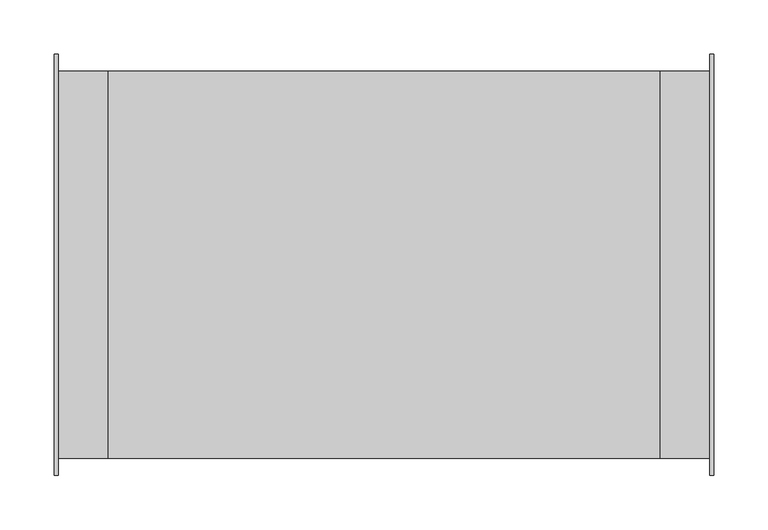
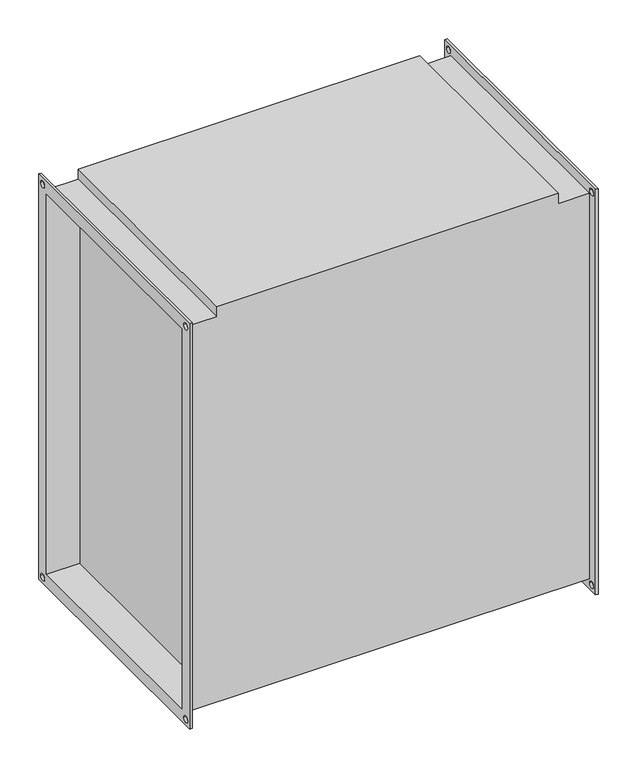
"""IFC4 building model written with IfcOpenShell, lengths in millimetres: proxy geometry, СВ_ВоздухонагревательЭлектрический_КанальныйПрямоугольный_200-1000_SPH-E : SPH-E-600x350/30."""

from ifc_helpers import new_model, si_unit, frame, origin, place, context, project, spatial, polyline, circle_curve, source, transform, mapped, element, save
from ifc_brep_helpers import plane_surface, revolved_surface, advanced_brep


def mechanical_equipment_c1a8ffe5(model_context):
    return source(origin(), model_context, "Body", "AdvancedBrep", [
        advanced_brep(
        [(-255.0, -179.0, 304.0), (-301.0, -179.0, 304.0), (-301.0, -179.0, -304.0), (301.0, -179.0, -304.0), (301.0, -179.0, 304.0), (255.0, -179.0, 304.0), (255.0, -179.0, 320.0), (-255.0, -179.0, 320.0), (-301.0, 179.0, -304.0), (301.0, 179.0, -304.0), (-301.0, 179.0, 304.0), (-255.0, 179.0, 304.0), (-255.0, 179.0, 320.0), (255.0, 179.0, 320.0), (255.0, 179.0, 304.0), (301.0, 179.0, 304.0), (255.0, 175.0, -300.0), (255.0, 175.0, 300.0), (255.0, -175.0, 300.0), (255.0, -175.0, -300.0), (-255.0, -175.0, 300.0), (-255.0, 175.0, 300.0), (-255.0, 175.0, -300.0), (-255.0, -175.0, -300.0), (-305.0, -195.0, 320.0), (-305.0, 195.0, 320.0), (-305.0, 195.0, -320.0), (-305.0, -195.0, -320.0), (-305.0, -175.0, 300.0), (-305.0, -175.0, -300.0), (-305.0, 175.0, -300.0), (-305.0, 175.0, 300.0), (-305.0, 180.0, 310.0), (-305.0, 190.0, 310.0), (-305.0, -190.0, 310.0), (-305.0, -180.0, 310.0), (-305.0, -190.0, -310.0), (-305.0, -180.0, -310.0), (-305.0, 180.0, -310.0), (-305.0, 190.0, -310.0), (-301.0, -195.0, 320.0), (-301.0, -195.0, -320.0), (-301.0, 195.0, -320.0), (-301.0, 195.0, 320.0), (-301.0, 190.0, 310.0), (-301.0, 180.0, 310.0), (-301.0, -180.0, 310.0), (-301.0, -190.0, 310.0), (-301.0, -180.0, -310.0), (-301.0, -190.0, -310.0), (-301.0, 190.0, -310.0), (-301.0, 180.0, -310.0), (301.0, 195.0, 320.0), (301.0, 195.0, -320.0), (301.0, -195.0, -320.0), (301.0, -195.0, 320.0), (301.0, 180.0, 310.0), (301.0, 190.0, 310.0), (301.0, -190.0, 310.0), (301.0, -180.0, 310.0), (301.0, -190.0, -310.0), (301.0, -180.0, -310.0), (301.0, 180.0, -310.0), (301.0, 190.0, -310.0), (305.0, 195.0, 320.0), (305.0, -195.0, 320.0), (305.0, -195.0, -320.0), (305.0, 195.0, -320.0), (305.0, 175.0, 300.0), (305.0, 175.0, -300.0), (305.0, -175.0, -300.0), (305.0, -175.0, 300.0), (305.0, 190.0, 310.0), (305.0, 180.0, 310.0), (305.0, -180.0, 310.0), (305.0, -190.0, 310.0), (305.0, -180.0, -310.0), (305.0, -190.0, -310.0), (305.0, 190.0, -310.0), (305.0, 180.0, -310.0)],
        [
            (0, 1),
            (1, 2),
            (2, 3),
            (3, 4),
            (4, 5),
            (5, 6),
            (6, 7),
            (7, 0),
            (2, 8),
            (8, 9),
            (9, 3),
            (10, 11),
            (11, 12),
            (12, 13),
            (13, 14),
            (14, 15),
            (15, 9),
            (8, 10),
            (0, 11),
            (10, 1),
            (13, 6),
            (5, 14),
            (16, 17),
            (17, 18),
            (18, 19),
            (19, 16),
            (7, 12),
            (20, 21),
            (21, 22),
            (22, 23),
            (23, 20),
            (4, 15),
            (24, 25),
            (25, 26),
            (26, 27),
            (27, 24),
            (28, 29),
            (29, 30),
            (30, 31),
            (31, 28),
            (32, 33, circle_curve(frame((-305.0, 185.0, 310.0), z_axis=(1.0, 0.0, 0.0), x_axis=(0.0, 1.0, 0.0)), 5.0)),
            (33, 32, circle_curve(frame((-305.0, 185.0, 310.0), z_axis=(1.0, 0.0, 0.0), x_axis=(0.0, 1.0, 0.0)), 5.0)),
            (34, 35, circle_curve(frame((-305.0, -185.0, 310.0), z_axis=(1.0, 0.0, 0.0), x_axis=(0.0, 1.0, 0.0)), 5.0)),
            (35, 34, circle_curve(frame((-305.0, -185.0, 310.0), z_axis=(1.0, 0.0, 0.0), x_axis=(0.0, 1.0, 0.0)), 5.0)),
            (36, 37, circle_curve(frame((-305.0, -185.0, -310.0), z_axis=(1.0, 0.0, 0.0), x_axis=(0.0, 1.0, 0.0)), 5.0)),
            (37, 36, circle_curve(frame((-305.0, -185.0, -310.0), z_axis=(1.0, 0.0, 0.0), x_axis=(0.0, 1.0, 0.0)), 5.0)),
            (38, 39, circle_curve(frame((-305.0, 185.0, -310.0), z_axis=(1.0, 0.0, 0.0), x_axis=(0.0, 1.0, 0.0)), 5.0)),
            (39, 38, circle_curve(frame((-305.0, 185.0, -310.0), z_axis=(1.0, 0.0, 0.0), x_axis=(0.0, 1.0, 0.0)), 5.0)),
            (40, 41),
            (41, 42),
            (42, 43),
            (43, 40),
            (44, 45, circle_curve(frame((-301.0, 185.0, 310.0), z_axis=(-1.0, 0.0, 0.0), x_axis=(0.0, 1.0, 0.0)), 5.0)),
            (45, 44, circle_curve(frame((-301.0, 185.0, 310.0), z_axis=(-1.0, 0.0, 0.0), x_axis=(0.0, 1.0, 0.0)), 5.0)),
            (46, 47, circle_curve(frame((-301.0, -185.0, 310.0), z_axis=(-1.0, 0.0, 0.0), x_axis=(0.0, 1.0, 0.0)), 5.0)),
            (47, 46, circle_curve(frame((-301.0, -185.0, 310.0), z_axis=(-1.0, 0.0, 0.0), x_axis=(0.0, 1.0, 0.0)), 5.0)),
            (48, 49, circle_curve(frame((-301.0, -185.0, -310.0), z_axis=(-1.0, 0.0, 0.0), x_axis=(0.0, 1.0, 0.0)), 5.0)),
            (49, 48, circle_curve(frame((-301.0, -185.0, -310.0), z_axis=(-1.0, 0.0, 0.0), x_axis=(0.0, 1.0, 0.0)), 5.0)),
            (50, 51, circle_curve(frame((-301.0, 185.0, -310.0), z_axis=(-1.0, 0.0, 0.0), x_axis=(0.0, 1.0, 0.0)), 5.0)),
            (51, 50, circle_curve(frame((-301.0, 185.0, -310.0), z_axis=(-1.0, 0.0, 0.0), x_axis=(0.0, 1.0, 0.0)), 5.0)),
            (27, 41),
            (40, 24),
            (26, 42),
            (25, 43),
            (52, 53),
            (53, 54),
            (54, 55),
            (55, 52),
            (56, 57, circle_curve(frame((301.0, 185.0, 310.0), z_axis=(1.0, 0.0, 0.0), x_axis=(0.0, 1.0, 0.0)), 5.0)),
            (57, 56, circle_curve(frame((301.0, 185.0, 310.0), z_axis=(1.0, 0.0, 0.0), x_axis=(0.0, 1.0, 0.0)), 5.0)),
            (58, 59, circle_curve(frame((301.0, -185.0, 310.0), z_axis=(1.0, 0.0, 0.0), x_axis=(0.0, 1.0, 0.0)), 5.0)),
            (59, 58, circle_curve(frame((301.0, -185.0, 310.0), z_axis=(1.0, 0.0, 0.0), x_axis=(0.0, 1.0, 0.0)), 5.0)),
            (60, 61, circle_curve(frame((301.0, -185.0, -310.0), z_axis=(1.0, 0.0, 0.0), x_axis=(0.0, 1.0, 0.0)), 5.0)),
            (61, 60, circle_curve(frame((301.0, -185.0, -310.0), z_axis=(1.0, 0.0, 0.0), x_axis=(0.0, 1.0, 0.0)), 5.0)),
            (62, 63, circle_curve(frame((301.0, 185.0, -310.0), z_axis=(1.0, 0.0, 0.0), x_axis=(0.0, 1.0, 0.0)), 5.0)),
            (63, 62, circle_curve(frame((301.0, 185.0, -310.0), z_axis=(1.0, 0.0, 0.0), x_axis=(0.0, 1.0, 0.0)), 5.0)),
            (64, 65),
            (65, 66),
            (66, 67),
            (67, 64),
            (68, 69),
            (69, 70),
            (70, 71),
            (71, 68),
            (72, 73, circle_curve(frame((305.0, 185.0, 310.0), z_axis=(-1.0, 0.0, 0.0), x_axis=(0.0, 1.0, 0.0)), 5.0)),
            (73, 72, circle_curve(frame((305.0, 185.0, 310.0), z_axis=(-1.0, 0.0, 0.0), x_axis=(0.0, 1.0, 0.0)), 5.0)),
            (74, 75, circle_curve(frame((305.0, -185.0, 310.0), z_axis=(-1.0, 0.0, 0.0), x_axis=(0.0, 1.0, 0.0)), 5.0)),
            (75, 74, circle_curve(frame((305.0, -185.0, 310.0), z_axis=(-1.0, 0.0, 0.0), x_axis=(0.0, 1.0, 0.0)), 5.0)),
            (76, 77, circle_curve(frame((305.0, -185.0, -310.0), z_axis=(-1.0, 0.0, 0.0), x_axis=(0.0, 1.0, 0.0)), 5.0)),
            (77, 76, circle_curve(frame((305.0, -185.0, -310.0), z_axis=(-1.0, 0.0, 0.0), x_axis=(0.0, 1.0, 0.0)), 5.0)),
            (78, 79, circle_curve(frame((305.0, 185.0, -310.0), z_axis=(-1.0, 0.0, 0.0), x_axis=(0.0, 1.0, 0.0)), 5.0)),
            (79, 78, circle_curve(frame((305.0, 185.0, -310.0), z_axis=(-1.0, 0.0, 0.0), x_axis=(0.0, 1.0, 0.0)), 5.0)),
            (55, 65),
            (64, 52),
            (54, 66),
            (53, 67),
            (31, 21),
            (20, 28),
            (30, 22),
            (29, 23),
            (68, 17),
            (16, 69),
            (19, 70),
            (18, 71),
            (32, 45),
            (44, 33),
            (56, 73),
            (72, 57),
            (34, 47),
            (46, 35),
            (58, 75),
            (74, 59),
            (36, 49),
            (48, 37),
            (60, 77),
            (76, 61),
            (38, 51),
            (50, 39),
            (62, 79),
            (78, 63),
        ],
        [
            plane_surface(frame((-255.0, -179.0, 304.0), z_axis=(0.0, -1.0, 0.0), x_axis=(-1.0, 0.0, 0.0))),
            plane_surface(frame((-255.0, -179.0, -304.0), z_axis=(0.0, 0.0, -1.0), x_axis=(-1.0, 0.0, 0.0))),
            plane_surface(frame((-255.0, 179.0, -304.0), z_axis=(0.0, 1.0, 0.0), x_axis=(-1.0, 0.0, 0.0))),
            plane_surface(frame((-255.0, 179.0, 304.0), z_axis=(0.0, 0.0, 1.0), x_axis=(-1.0, 0.0, 0.0))),
            plane_surface(frame((255.0, -179.0, 320.0), z_axis=(1.0, 0.0, 0.0), x_axis=(0.0, 0.0, -1.0))),
            plane_surface(frame((-255.0, -179.0, 320.0), z_axis=(-1.0, 0.0, 0.0), x_axis=(0.0, 0.0, 1.0))),
            plane_surface(frame((255.0, 179.0, 320.0), z_axis=(0.0, 0.0, 1.0), x_axis=(-1.0, 0.0, 0.0))),
            plane_surface(frame((301.0, 179.0, 304.0), z_axis=(0.0, 0.0, 1.0), x_axis=(-1.0, 0.0, 0.0))),
            plane_surface(frame((-305.0, -195.0, 320.0), z_axis=(-1.0, 0.0, 0.0), x_axis=(0.0, 0.0, 1.0))),
            plane_surface(frame((-301.0, -195.0, 320.0), z_axis=(1.0, 0.0, 0.0), x_axis=(0.0, 0.0, -1.0))),
            plane_surface(frame((-301.0, -195.0, 320.0), z_axis=(0.0, -1.0, 0.0), x_axis=(-1.0, 0.0, 0.0))),
            plane_surface(frame((-301.0, -195.0, -320.0), z_axis=(0.0, 0.0, -1.0), x_axis=(-1.0, 0.0, 0.0))),
            plane_surface(frame((-301.0, 195.0, -320.0), z_axis=(0.0, 1.0, 0.0), x_axis=(-1.0, 0.0, 0.0))),
            plane_surface(frame((-301.0, 195.0, 320.0), z_axis=(0.0, 0.0, 1.0), x_axis=(-1.0, 0.0, 0.0))),
            plane_surface(frame((301.0, 175.0, -300.0), z_axis=(-1.0, 0.0, 0.0), x_axis=(0.0, 0.0, 1.0))),
            plane_surface(frame((305.0, 175.0, -300.0), z_axis=(1.0, 0.0, 0.0), x_axis=(0.0, 0.0, -1.0))),
            plane_surface(frame((305.0, 195.0, 320.0), z_axis=(0.0, 0.0, 1.0), x_axis=(-1.0, 0.0, 0.0))),
            plane_surface(frame((305.0, -195.0, 320.0), z_axis=(0.0, -1.0, 0.0), x_axis=(-1.0, 0.0, 0.0))),
            plane_surface(frame((305.0, -195.0, -320.0), z_axis=(0.0, 0.0, -1.0), x_axis=(-1.0, 0.0, 0.0))),
            plane_surface(frame((305.0, 195.0, -320.0), z_axis=(0.0, 1.0, 0.0), x_axis=(-1.0, 0.0, 0.0))),
            plane_surface(frame((-301.0, -175.0, 300.0), z_axis=(0.0, 0.0, -1.0), x_axis=(-1.0, 0.0, 0.0))),
            plane_surface(frame((-301.0, 175.0, 300.0), z_axis=(0.0, -1.0, 0.0), x_axis=(-1.0, 0.0, 0.0))),
            plane_surface(frame((-301.0, 175.0, -300.0), z_axis=(0.0, 0.0, 1.0), x_axis=(-1.0, 0.0, 0.0))),
            plane_surface(frame((-301.0, -175.0, -300.0), z_axis=(0.0, 1.0, 0.0), x_axis=(-1.0, 0.0, 0.0))),
            plane_surface(frame((305.0, 175.0, 300.0), z_axis=(0.0, -1.0, 0.0), x_axis=(-1.0, 0.0, 0.0))),
            plane_surface(frame((305.0, 175.0, -300.0), z_axis=(0.0, 0.0, 1.0), x_axis=(-1.0, 0.0, 0.0))),
            plane_surface(frame((305.0, -175.0, -300.0), z_axis=(0.0, 1.0, 0.0), x_axis=(-1.0, 0.0, 0.0))),
            plane_surface(frame((305.0, -175.0, 300.0), z_axis=(0.0, 0.0, -1.0), x_axis=(-1.0, 0.0, 0.0))),
            revolved_surface(polyline([(-301.0, 190.0, 310.0), (-305.0, 190.0, 310.0)]), (-305.0, 185.0, 310.0), (1.0, 0.0, 0.0)),
            revolved_surface(polyline([(305.0, 190.0, 310.0), (301.0, 190.0, 310.0)]), (-305.0, 185.0, 310.0), (1.0, 0.0, 0.0)),
            revolved_surface(polyline([(-301.0, -180.0, 310.0), (-305.0, -180.0, 310.0)]), (0.0, -185.0, 310.0), (1.0, 0.0, 0.0)),
            revolved_surface(polyline([(305.0, -180.0, 310.0), (301.0, -180.0, 310.0)]), (0.0, -185.0, 310.0), (1.0, 0.0, 0.0)),
            revolved_surface(polyline([(-301.0, -180.0, -310.0), (-305.0, -180.0, -310.0)]), (0.0, -185.0, -310.0), (1.0, 0.0, 0.0)),
            revolved_surface(polyline([(305.0, -180.0, -310.0), (301.0, -180.0, -310.0)]), (0.0, -185.0, -310.0), (1.0, 0.0, 0.0)),
            revolved_surface(polyline([(-301.0, 190.0, -310.0), (-305.0, 190.0, -310.0)]), (0.0, 185.0, -310.0), (1.0, 0.0, 0.0)),
            revolved_surface(polyline([(305.0, 190.0, -310.0), (301.0, 190.0, -310.0)]), (0.0, 185.0, -310.0), (1.0, 0.0, 0.0)),
        ],
        [
            (0, [[1, 2, 3, 4, 5, 6, 7, 8]]),
            (1, [[-3, 9, 10, 11]]),
            (2, [[12, 13, 14, 15, 16, 17, -10, 18]]),
            (3, [[-1, 19, -12, 20]]),
            (4, [[21, -6, 22, -15]]),
            (4, [[23, 24, 25, 26]]),
            (5, [[27, -13, -19, -8]]),
            (5, [[28, 29, 30, 31]]),
            (6, [[-21, -14, -27, -7]]),
            (7, [[-5, 32, -16, -22]]),
            (8, [[33, 34, 35, 36], [37, 38, 39, 40], [41, 42], [43, 44], [45, 46], [47, 48]]),
            (9, [[49, 50, 51, 52], [-2, -20, -18, -9], [53, 54], [55, 56], [57, 58], [59, 60]]),
            (10, [[-36, 61, -49, 62]]),
            (11, [[-35, 63, -50, -61]]),
            (12, [[-34, 64, -51, -63]]),
            (13, [[-33, -62, -52, -64]]),
            (14, [[65, 66, 67, 68], [-4, -11, -17, -32], [69, 70], [71, 72], [73, 74], [75, 76]]),
            (15, [[77, 78, 79, 80], [81, 82, 83, 84], [85, 86], [87, 88], [89, 90], [91, 92]]),
            (16, [[-68, 93, -77, 94]]),
            (17, [[-67, 95, -78, -93]]),
            (18, [[-66, 96, -79, -95]]),
            (19, [[-65, -94, -80, -96]]),
            (20, [[-40, 97, -28, 98]]),
            (21, [[-39, 99, -29, -97]]),
            (22, [[-38, 100, -30, -99]]),
            (23, [[-37, -98, -31, -100]]),
            (24, [[-81, 101, -23, 102]]),
            (25, [[-82, -102, -26, 103]]),
            (26, [[-83, -103, -25, 104]]),
            (27, [[-101, -84, -104, -24]]),
            (28, [[105, -53, 106, -41]]),
            (29, [[107, -85, 108, -69]]),
            (28, [[-105, -42, -106, -54]]),
            (29, [[-107, -70, -108, -86]]),
            (30, [[109, -55, 110, -43]]),
            (31, [[111, -87, 112, -71]]),
            (30, [[-109, -44, -110, -56]]),
            (31, [[-111, -72, -112, -88]]),
            (32, [[113, -57, 114, -45]]),
            (33, [[115, -89, 116, -73]]),
            (32, [[-113, -46, -114, -58]]),
            (33, [[-115, -74, -116, -90]]),
            (34, [[117, -59, 118, -47]]),
            (35, [[119, -91, 120, -75]]),
            (34, [[-117, -48, -118, -60]]),
            (35, [[-119, -76, -120, -92]]),
        ],
    ),
    ])


if __name__ == "__main__":
    model = new_model("IFC4")
    model_context = context("Model", 3, world=origin())
    ifc_project = project(units=[si_unit("LENGTHUNIT", "METRE", prefix="MILLI")], contexts=[model_context])
    site = spatial("IfcSite", under=ifc_project)
    building = spatial("IfcBuilding", under=site)
    placement = place(None, origin())
    mechanical_equipment_shape = mechanical_equipment_c1a8ffe5(model_context)
    element("IfcBuildingElementProxy", 1, Name="СВ_ВоздухонагревательЭлектрический_КанальныйПрямоугольный_200-1000_SPH-E : SPH-E-600x350/30", ObjectType="СВ_ВоздухонагревательЭлектрический_КанальныйПрямоугольный_200-1000_SPH-E : SPH-E-600x350/30", at=placement, inside=building, context=model_context, shape_type="MappedRepresentation", body=[
        mapped(mechanical_equipment_shape, transform((0.0, 0.0, 0.0), x_axis=(1.0, 0.0, 0.0), y_axis=(0.0, 1.0, 0.0), z_axis=(0.0, 0.0, 1.0))),
    ])
    save(model, "model.ifc")
